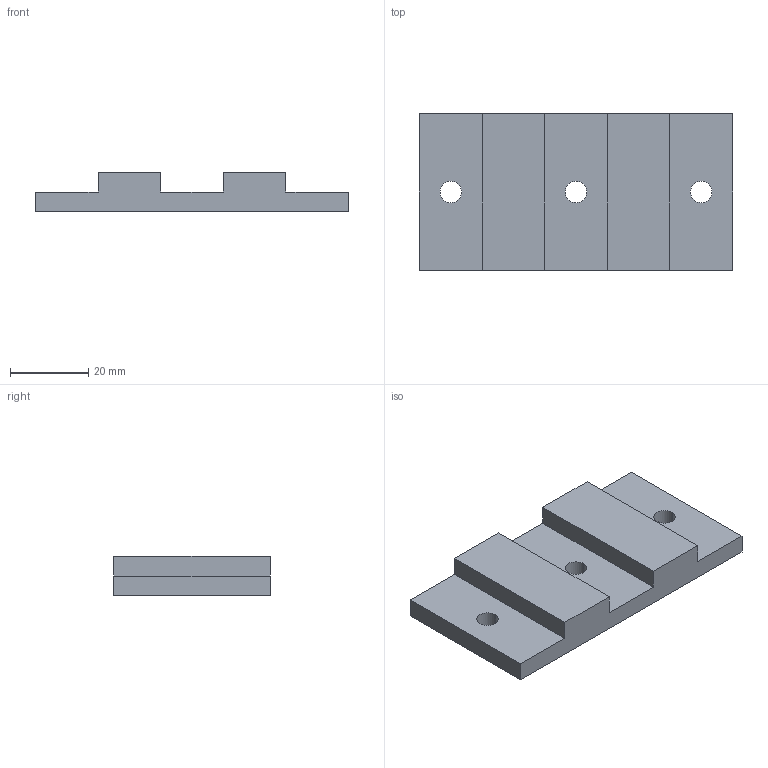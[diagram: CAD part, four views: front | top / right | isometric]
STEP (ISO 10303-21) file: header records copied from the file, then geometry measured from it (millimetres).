
FILE_DESCRIPTION(('CATIA V5 STEP Exchange'),'2;1');
FILE_NAME('G:\够快云库\系统集成开发部\1.部门成员\孙国\工装\气密检测工装\STP\VDC阀\GZ-QMVDC.07_V1 密封支撑板.stp','2021-06-08T02:54:10+00:00',('none'),('none'),'CATIA Version 5 Release 20 GA (IN-10)','CATIA V5 STEP AP214','none');
FILE_SCHEMA(('AUTOMOTIVE_DESIGN { 1 0 10303 214 1 1 1 1 }'));
Length unit declared in the file: millimetre
Products named in the file (1): 密封支撑块
Bounding box: 80 x 40 x 10 mm (x, y, z)
Volume: 22043.6 mm3; surface area: 8836.6 mm2
Topology: 1 solids, 1 shells, 20 faces, 54 edges, 36 vertices
Faces by surface type: plane 14, cylinder 6
Entity records: 622 total; most frequent: ORIENTED_EDGE 108, CARTESIAN_POINT 105, DIRECTION 82, EDGE_CURVE 54, VECTOR 42, LINE 42, VERTEX_POINT 36, AXIS2_PLACEMENT_3D 27
